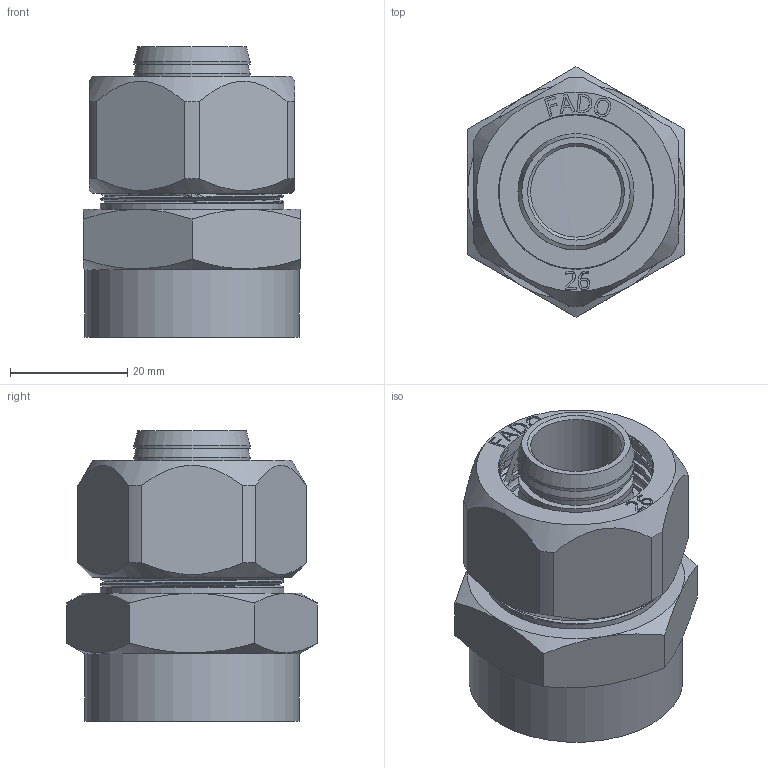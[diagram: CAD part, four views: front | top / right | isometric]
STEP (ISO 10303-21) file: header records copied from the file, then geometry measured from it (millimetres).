
FILE_DESCRIPTION(/* description */ (''),/* implementation_level */ '2;1');
FILE_NAME(/* name */ 'C:\Users\Doom\Desktop\Фадотех\Обжим\RFM15 26x1F 30.03.2020\RFM15 26x1F 30.03.2020.stp',/* time_stamp */ '2022-06-01T21:23:27+03:00',/* author */ ('Doom'),/* organization */ (''),/* preprocessor_version */ 'ST-DEVELOPER v18',/* originating_system */ 'Autodesk Inventor 2020',/* authorisation */ '');
FILE_SCHEMA (('AUTOMOTIVE_DESIGN { 1 0 10303 214 3 1 1 }'));
Length unit declared in the file: millimetre
Products named in the file (5): RFM15 26x1F 30.03.2020; RFM15 26x1F 30.03.2020_1; FADO MC Nut-26 15.02.2020; FADO MC Socket-26 15.02.2020; Olive 26 15.02.2020
Assembly tree (4 placements, depth 2):
  RFM15 26x1F 30.03.2020
    RFM15 26x1F 30.03.2020_1
    FADO MC Nut-26 15.02.2020
    FADO MC Socket-26 15.02.2020
    Olive 26 15.02.2020
Bounding box: 37 x 42.72 x 49.5 mm (x, y, z)
Volume: 24202.4 mm3; surface area: 31751.3 mm2
Topology: 7 solids, 7 shells, 532 faces, 1463 edges, 985 vertices
Faces by surface type: bspline 272, plane 141, cylinder 93, cone 24, torus 2
Full cylindrical faces by diameter (mm): 15.5 x1, 17.6 x2, 19.8 x5, 21 x1, 24 x2, 24.5 x1, 26.5 x1, 29.89 x2, 30 x1, 30.113 x7, 30.517 x11, 30.6 x1, 31.373 x12, 32 x2, 33.537 x2, 36.5 x1
Entity records: 36681 total; most frequent: CARTESIAN_POINT 24810, ORIENTED_EDGE 2918, DIRECTION 1596, EDGE_CURVE 1459, VERTEX_POINT 983, B_SPLINE_CURVE_WITH_KNOTS 629, EDGE_LOOP 586, LINE 534
